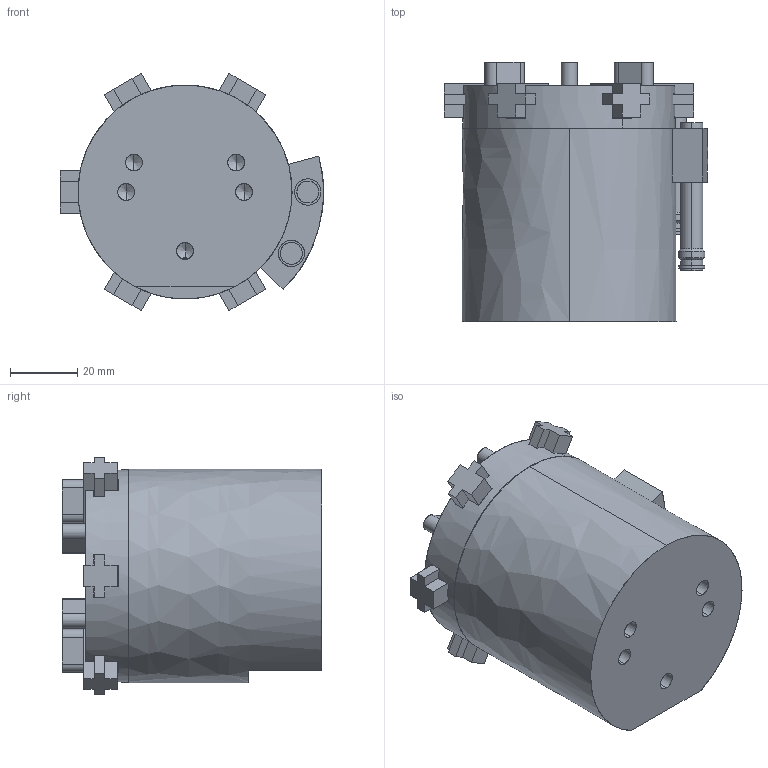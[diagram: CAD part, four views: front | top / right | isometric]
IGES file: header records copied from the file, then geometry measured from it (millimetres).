
Start section: SolidWorks IGES file using analytic representation for surfaces
Global section: file name: E:\Customer Files\AGI Automation\AGP-6-OR\AGP-6-OR OPEN in MM.IGS; native system: SolidWorks 2013; preprocessor: SolidWorks 2013; author: jmkuhnes; date: 150601.092403; units: millimetre
Bounding box: 78.12 x 76.96 x 70.44 mm (x, y, z)
Surface area: 49848.6 mm2 (no closed solid volume)
Topology: 0 solids, 0 shells, 609 faces, 7179 edges, 7103 vertices
Faces by surface type: revolution 368, bspline 241
